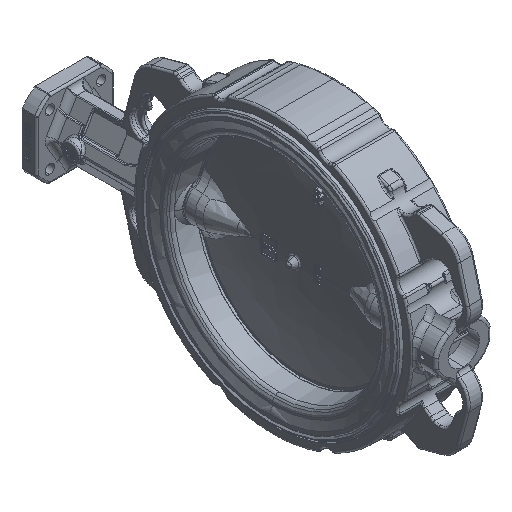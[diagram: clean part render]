
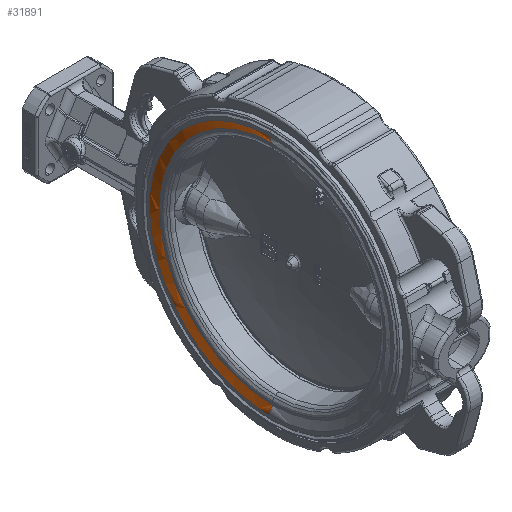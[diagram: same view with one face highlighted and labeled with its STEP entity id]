
A CAD part, isometric view. The second image highlights one B-rep face of the part: STEP entity #31891.
In plain terms, the highlighted free-form (B-spline) face has degree [3, 3] with [4, 4] control points.
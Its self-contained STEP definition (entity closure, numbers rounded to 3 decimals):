
#713 = CARTESIAN_POINT ( 'NONE',  ( -32.5, 227.308, 113.654 ) ) ;
#5597 = CARTESIAN_POINT ( 'NONE',  ( -32.5, 0., -116.331 ) ) ;
#7259 = DIRECTION ( 'NONE',  ( 0., 0., -1. ) ) ;
#7392 = CARTESIAN_POINT ( 'NONE',  ( -31.636, 0., 111.12 ) ) ;
#8745 = CIRCLE ( 'NONE', #71042, 109. ) ;
#10442 = DIRECTION ( 'NONE',  ( 0., 0., 1. ) ) ;
#10834 = CIRCLE ( 'NONE', #38129, 12. ) ;
#13457 = CARTESIAN_POINT ( 'NONE',  ( -32.5, 232.663, -116.331 ) ) ;
#15124 = ORIENTED_EDGE ( 'NONE', *, *, #22663, .T. ) ;
#16332 = VERTEX_POINT ( 'NONE', #49976 ) ;
#19349 = CARTESIAN_POINT ( 'NONE',  ( -30., 0., 109. ) ) ;
#19623 = CARTESIAN_POINT ( 'NONE',  ( -30., 218., 109. ) ) ;
#22663 = EDGE_CURVE ( 'NONE', #16332, #35776, #34247, .T. ) ;
#24948 = CARTESIAN_POINT ( 'NONE',  ( -32.5, 232.663, 116.331 ) ) ;
#25737 = CARTESIAN_POINT ( 'NONE',  ( -31.636, 0., -111.12 ) ) ;
#31057 = CARTESIAN_POINT ( 'NONE',  ( -30., 218., -109. ) ) ;
#31891 = ADVANCED_FACE ( 'NONE', ( #70332 ), #46726, .T. ) ;
#33276 = CARTESIAN_POINT ( 'NONE',  ( -30., 0., 0. ) ) ;
#33543 = DIRECTION ( 'NONE',  ( 1., 0., 0. ) ) ;
#34247 =( BOUNDED_CURVE ( )  B_SPLINE_CURVE ( 3, ( #35794, #71565, #53755, #35268 ),
 .UNSPECIFIED., .F., .F. ) 
 B_SPLINE_CURVE_WITH_KNOTS ( ( 4, 4 ),
 ( 0.5, 1. ),
 .UNSPECIFIED. ) 
 CURVE ( )  GEOMETRIC_REPRESENTATION_ITEM ( )  RATIONAL_B_SPLINE_CURVE ( ( 1., 0.333, 0.333, 1. ) ) 
 REPRESENTATION_ITEM ( '' )  );
#35144 = CARTESIAN_POINT ( 'NONE',  ( -20.5, 0., 116.331 ) ) ;
#35268 = CARTESIAN_POINT ( 'NONE',  ( -32.5, 0., -116.331 ) ) ;
#35776 = VERTEX_POINT ( 'NONE', #5597 ) ;
#35794 = CARTESIAN_POINT ( 'NONE',  ( -32.5, 0., 116.331 ) ) ;
#37295 = CARTESIAN_POINT ( 'NONE',  ( -30., 0., -109. ) ) ;
#38129 = AXIS2_PLACEMENT_3D ( 'NONE', #35144, #46787, #10442 ) ;
#43494 = CARTESIAN_POINT ( 'NONE',  ( -32.5, 0., -113.654 ) ) ;
#46726 =( BOUNDED_SURFACE ( )  B_SPLINE_SURFACE ( 3, 3, ( 
 ( #61224, #13457, #24948, #67324 ),
 ( #43494, #74229, #713, #67574 ),
 ( #25737, #49517, #55604, #7392 ),
 ( #67846, #31057, #19623, #19349 ) ),
 .UNSPECIFIED., .F., .F., .F. ) 
 B_SPLINE_SURFACE_WITH_KNOTS ( ( 4, 4 ),
 ( 4, 4 ),
 ( 0., 1. ),
 ( 0., 1. ),
 .UNSPECIFIED. ) 
 GEOMETRIC_REPRESENTATION_ITEM ( )  RATIONAL_B_SPLINE_SURFACE ( (
 ( 1., 0.333, 0.333, 1.),
 ( 0.964, 0.321, 0.321, 0.964),
 ( 0.964, 0.321, 0.321, 0.964),
 ( 1., 0.333, 0.333, 1.) ) ) 
 REPRESENTATION_ITEM ( '' )  SURFACE ( )  );
#46787 = DIRECTION ( 'NONE',  ( 0., -1., 0. ) ) ;
#47751 = ORIENTED_EDGE ( 'NONE', *, *, #50195, .T. ) ;
#49517 = CARTESIAN_POINT ( 'NONE',  ( -31.636, 222.239, -111.12 ) ) ;
#49976 = CARTESIAN_POINT ( 'NONE',  ( -32.5, 0., 116.331 ) ) ;
#50195 = EDGE_CURVE ( 'NONE', #35776, #57122, #56524, .T. ) ;
#52527 = EDGE_CURVE ( 'NONE', #16332, #55776, #10834, .T. ) ;
#53755 = CARTESIAN_POINT ( 'NONE',  ( -32.5, 232.663, -116.331 ) ) ;
#54674 = AXIS2_PLACEMENT_3D ( 'NONE', #68500, #74646, #7259 ) ;
#55309 = EDGE_LOOP ( 'NONE', ( #77518, #15124, #47751, #57035 ) ) ;
#55604 = CARTESIAN_POINT ( 'NONE',  ( -31.636, 222.239, 111.12 ) ) ;
#55776 = VERTEX_POINT ( 'NONE', #69021 ) ;
#56524 = CIRCLE ( 'NONE', #54674, 12. ) ;
#57035 = ORIENTED_EDGE ( 'NONE', *, *, #75702, .T. ) ;
#57122 = VERTEX_POINT ( 'NONE', #37295 ) ;
#61224 = CARTESIAN_POINT ( 'NONE',  ( -32.5, 0., -116.331 ) ) ;
#67324 = CARTESIAN_POINT ( 'NONE',  ( -32.5, 0., 116.331 ) ) ;
#67574 = CARTESIAN_POINT ( 'NONE',  ( -32.5, 0., 113.654 ) ) ;
#67846 = CARTESIAN_POINT ( 'NONE',  ( -30., 0., -109. ) ) ;
#68500 = CARTESIAN_POINT ( 'NONE',  ( -20.5, 0., -116.331 ) ) ;
#69021 = CARTESIAN_POINT ( 'NONE',  ( -30., 0., 109. ) ) ;
#70332 = FACE_OUTER_BOUND ( 'NONE', #55309, .T. ) ;
#71042 = AXIS2_PLACEMENT_3D ( 'NONE', #33276, #33543, #75943 ) ;
#71565 = CARTESIAN_POINT ( 'NONE',  ( -32.5, 232.663, 116.331 ) ) ;
#74229 = CARTESIAN_POINT ( 'NONE',  ( -32.5, 227.308, -113.654 ) ) ;
#74646 = DIRECTION ( 'NONE',  ( 0., 1., 0. ) ) ;
#75702 = EDGE_CURVE ( 'NONE', #57122, #55776, #8745, .T. ) ;
#75943 = DIRECTION ( 'NONE',  ( 0., 0., -1. ) ) ;
#77518 = ORIENTED_EDGE ( 'NONE', *, *, #52527, .F. ) ;
